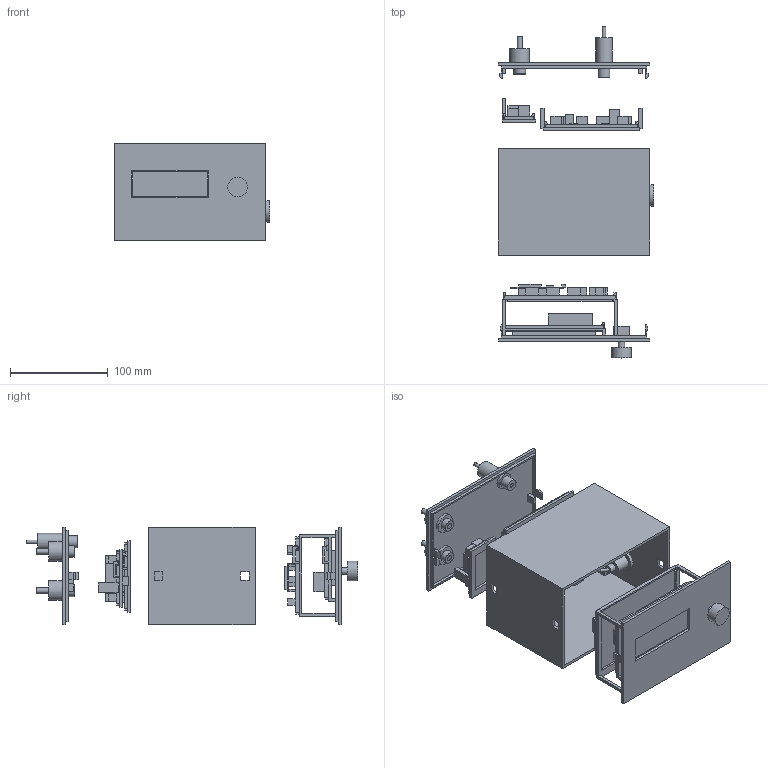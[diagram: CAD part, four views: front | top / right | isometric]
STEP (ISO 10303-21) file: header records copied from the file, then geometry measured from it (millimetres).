
FILE_DESCRIPTION(('Open CASCADE Model'),'2;1');
FILE_NAME('Open CASCADE Shape Model','2026-11-05T11:13:34',('Author'),( 'Open CASCADE'),'Open CASCADE STEP processor 7.8','Open CASCADE 7.8' ,'Unknown');
FILE_SCHEMA(('AUTOMOTIVE_DESIGN { 1 0 10303 214 1 1 1 1 }'));
Length unit declared in the file: millimetre
Products named in the file (88): Exploded_fit_study_05_XL4015_Diymore; 05_XL4015_removable_carrier; 01_Shell_open_front_and_rear; 02_Removable_front_LCD_A; 03_B_removable_carrier; 04_Rear_panel_with_latches; PCB_A; A_C1_ENVELOPE; A_C2_ENVELOPE; A_C3_ENVELOPE; A_J1_ENVELOPE; A_J2_ENVELOPE; A_J3_ENVELOPE; A_J4_ENVELOPE; A_J5_ENVELOPE; A_J6_ENVELOPE; A_J7_ENVELOPE; A_JP1_ENVELOPE; A_R1_ENVELOPE; A_R2_ENVELOPE; A_R3_ENVELOPE; A_R4_ENVELOPE; A_R5_ENVELOPE; A_U2_ENVELOPE; PCB_B; B_C1_ENVELOPE; B_C2_ENVELOPE; B_C3_ENVELOPE; B_C4_ENVELOPE; B_C5_ENVELOPE; B_C6_ENVELOPE; B_C7_ENVELOPE; B_C8_ENVELOPE; B_D2_ENVELOPE; B_D3_ENVELOPE; B_D4_ENVELOPE; B_F1_ENVELOPE; B_F2_ENVELOPE; B_J1_ENVELOPE; B_J2_ENVELOPE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
Assembly tree (87 placements, depth 2):
  Exploded_fit_study_05_XL4015_Diymore
    05_XL4015_removable_carrier
    01_Shell_open_front_and_rear
    02_Removable_front_LCD_A
    03_B_removable_carrier
    04_Rear_panel_with_latches
    PCB_A
    A_C1_ENVELOPE
    A_C2_ENVELOPE
    A_C3_ENVELOPE
    A_J1_ENVELOPE
    A_J2_ENVELOPE
    A_J3_ENVELOPE
    A_J4_ENVELOPE
    A_J5_ENVELOPE
    A_J6_ENVELOPE
    A_J7_ENVELOPE
    A_JP1_ENVELOPE
    A_R1_ENVELOPE
    A_R2_ENVELOPE
    A_R3_ENVELOPE
    A_R4_ENVELOPE
    A_R5_ENVELOPE
    A_U2_ENVELOPE
    PCB_B
    B_C1_ENVELOPE
    B_C2_ENVELOPE
    B_C3_ENVELOPE
    B_C4_ENVELOPE
    B_C5_ENVELOPE
    B_C6_ENVELOPE
    B_C7_ENVELOPE
    B_C8_ENVELOPE
    B_D2_ENVELOPE
    B_D3_ENVELOPE
    B_D4_ENVELOPE
    B_F1_ENVELOPE
    B_F2_ENVELOPE
    B_J1_ENVELOPE
    B_J2_ENVELOPE
    B_J3_ENVELOPE
    B_J4_ENVELOPE
    B_J6_ENVELOPE
    B_J7_ENVELOPE
    B_J8_ENVELOPE
    B_J9_ENVELOPE
    B_Q1_ENVELOPE
    B_Q2_ENVELOPE
    B_R1_ENVELOPE
    B_R2_ENVELOPE
    B_R3_ENVELOPE
    B_R4_ENVELOPE
    B_R5_ENVELOPE
    B_R6_ENVELOPE
    B_R7_ENVELOPE
    B_R8_ENVELOPE
    B_U2_ENVELOPE
    B_U3_ENVELOPE
    B_U4_ENVELOPE
    B_U5_ENVELOPE
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Bounding box: 159 x 339 x 100 mm (x, y, z)
Volume: 444373 mm3; surface area: 332606.9 mm2
Topology: 87 solids, 87 shells, 979 faces, 2331 edges, 1550 vertices
Faces by surface type: plane 946, cylinder 33
Full cylindrical faces by diameter (mm): 3 x3, 3.5 x1, 4.3 x1, 5.5 x2, 6.3 x2, 6.4 x1, 7.2 x1, 8 x1, 12 x6, 12.4 x1, 12.5 x2, 15 x2, 16 x1, 17 x2, 20 x5, 22 x2
Entity records: 60310 total; most frequent: CARTESIAN_POINT 9664, DIRECTION 9191, LINE 6845, VECTOR 6845, ORIENTED_EDGE 4662, PCURVE 4662, DEFINITIONAL_REPRESENTATION 4662, EDGE_CURVE 2331
